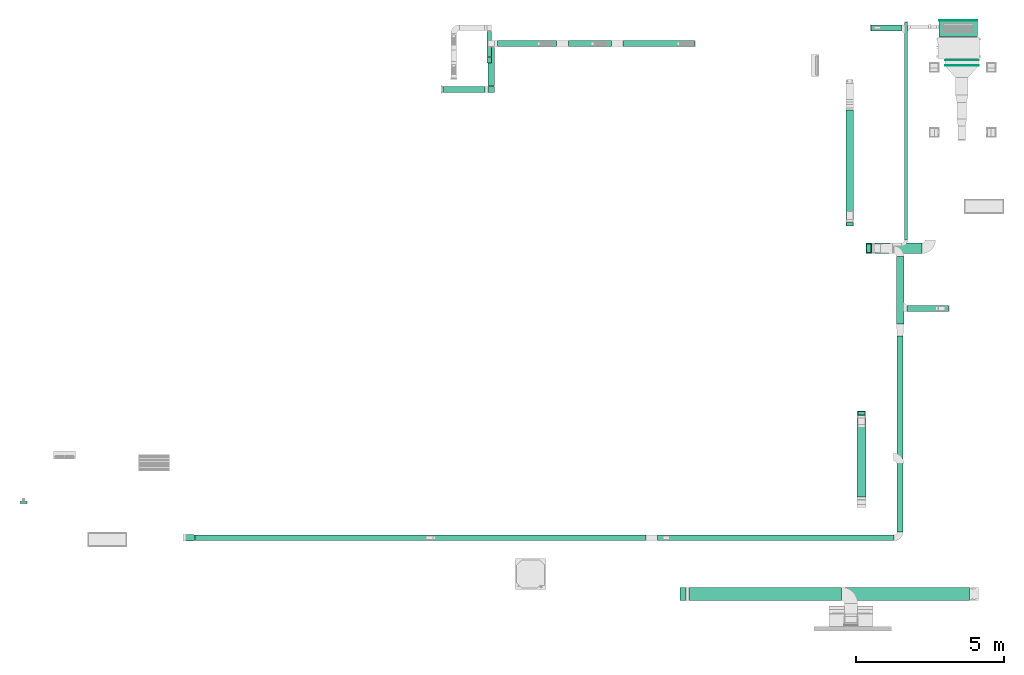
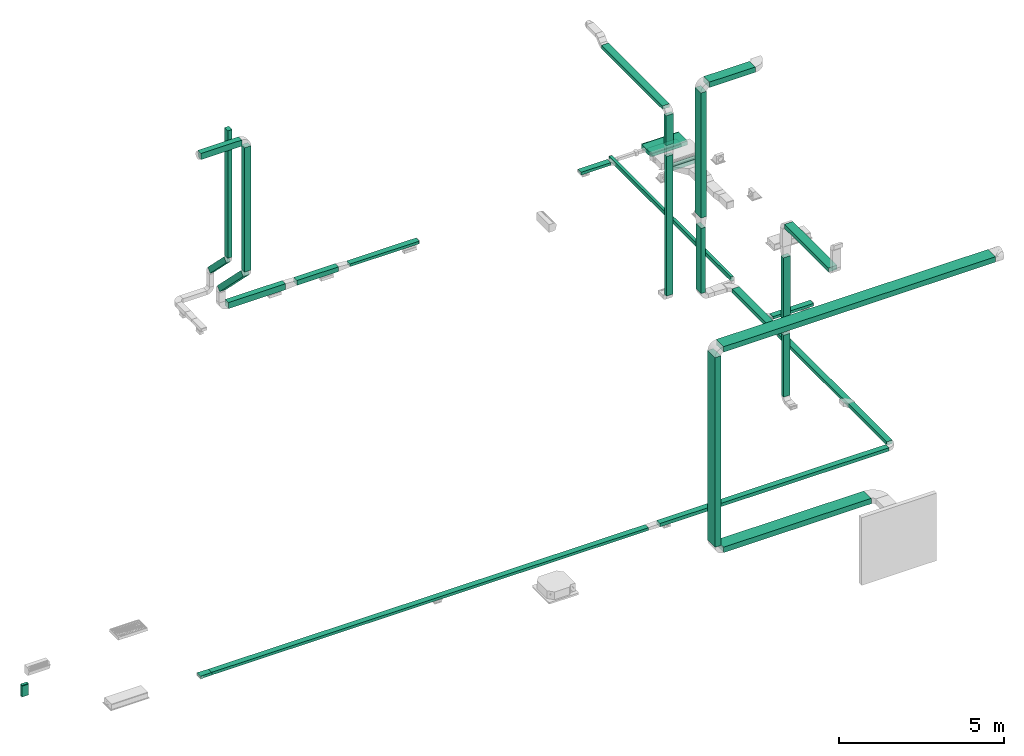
# One storey, part 2 of 22: 32 flow segments, 3 flow fittings.
"""IFC2X3 building model written with IfcOpenShell, lengths in millimetres."""

from ifc_helpers import new_model, entity, si_unit, converted_unit, derived_unit, direction, frame, frame_2d, origin, origin_2d_with_axis, place, context, subcontext, project, spatial, polyline, rectangle, outline, extrude, source, transform, mapped, material, type_object, type_shapes, element, save


model = new_model("IFC2X3")

# Units and contexts
model_context = context("Model", 3, precision=0.01, world=origin(), true_north=direction((6.123233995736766e-17, 1.0)))
body_context = subcontext(model_context, "Body", "Model", "MODEL_VIEW")
ifc_project = project(units=[si_unit("LENGTHUNIT", "METRE", prefix="MILLI"), converted_unit("PLANEANGLEUNIT", "DEGREE", entity("IfcPlaneAngleMeasure", 0.017453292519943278), si_unit("PLANEANGLEUNIT", "RADIAN"), dimensions=[0, 0, 0, 0, 0, 0, 0]), si_unit("AREAUNIT", "SQUARE_METRE"), derived_unit("THERMALTRANSMITTANCEUNIT", [(si_unit("MASSUNIT", "GRAM", prefix="KILO"), 1), (si_unit("THERMODYNAMICTEMPERATUREUNIT", "KELVIN"), -1), (si_unit("TIMEUNIT", "SECOND"), -3)])], contexts=[model_context])

# Site, building, storey
site_placement = place(None, origin())
site = spatial("IfcSite", under=ifc_project, at=site_placement, Name="Default", CompositionType="ELEMENT")
building_placement = place(site_placement, origin())
building = spatial("IfcBuilding", under=site, at=building_placement, Name="Praça Pedro II, 1301 - Centro (Sul), Teresina - PI, 64001-100", CompositionType="ELEMENT")
storey_placement = place(building_placement, frame((0.0, 0.0, 320.0)))
storey = spatial("IfcBuildingStorey", under=building, at=storey_placement, Name="TÉRREO +0.32m", CompositionType="ELEMENT", Elevation=319.99999999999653)

# Flow segments
duct_segment_type = type_object("IfcDuctSegmentType", Name="Duto retangular:Raios cotovelos / torneiras", PredefinedType="NOTDEFINED")
flow_segment_1_placement = place(storey_placement, origin())
element("IfcFlowSegment", 1, at=flow_segment_1_placement, inside=storey, type_object=duct_segment_type, Name="Duto retangular:Raios cotovelos / torneiras", ObjectType="Duto retangular:Raios cotovelos / torneiras", context=body_context, shape_type="SweptSolid", body=[
    extrude(rectangle(XDim=125.00000000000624, YDim=250.0000000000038, at=origin_2d_with_axis()), frame((33786.88553093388, -58173.34224349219, 7565.758657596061), z_axis=(0.0, 0.0, 1.0), x_axis=(0.0, 1.0, 0.0)), (0.0, 0.0, 1.0), 1108.6132194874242),
])
flow_segment_2_placement = place(storey_placement, origin())
element("IfcFlowSegment", 2, at=flow_segment_2_placement, inside=storey, type_object=duct_segment_type, Name="Duto retangular:Raios cotovelos / torneiras", ObjectType="Duto retangular:Raios cotovelos / torneiras", context=body_context, shape_type="SweptSolid", body=[
    extrude(rectangle(XDim=125.00000000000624, YDim=225.00000000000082, at=frame_2d((8.661515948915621e-12, 0.0), x_axis=(1.0, 0.0))), frame((34186.88553093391, -64568.11640775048, 2003.5000001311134), z_axis=(0.0, 0.0, 1.0), x_axis=(0.0, 1.0, 0.0)), (0.0, 0.0, 1.0), 2289.0158834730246),
])
flow_segment_3_placement = place(storey_placement, origin())
element("IfcFlowSegment", 3, at=flow_segment_3_placement, inside=storey, type_object=duct_segment_type, Name="Duto retangular:Raios cotovelos / torneiras", ObjectType="Duto retangular:Raios cotovelos / torneiras", context=body_context, shape_type="SweptSolid", body=[
    extrude(rectangle(XDim=150.00000000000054, YDim=250.0000000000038, at=origin_2d_with_axis()), frame((34186.88553093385, -64568.116407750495, 4692.515883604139), z_axis=(0.0, 0.0, 1.0), x_axis=(0.0, 1.0, 0.0)), (0.0, 0.0, 1.0), 2473.909397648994),
])
flow_segment_4_placement = place(storey_placement, origin())
element("IfcFlowSegment", 4, at=flow_segment_4_placement, inside=storey, type_object=duct_segment_type, Name="Duto retangular:Raios cotovelos / torneiras", ObjectType="Duto retangular:Raios cotovelos / torneiras", context=body_context, shape_type="SweptSolid", body=[
    extrude(rectangle(XDim=2420.0, YDim=199.99999999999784, at=frame_2d((-2.1600499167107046e-12, 1.2995826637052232e-11), x_axis=(1.0, 0.0))), frame((27325.758340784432, -52054.62602949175, 2050.0)), (0.0, 0.0, 1.0), 100.0),
])
flow_segment_5_placement = place(storey_placement, origin())
element("IfcFlowSegment", 5, at=flow_segment_5_placement, inside=storey, type_object=duct_segment_type, Name="Duto retangular:Raios cotovelos / torneiras", ObjectType="Duto retangular:Raios cotovelos / torneiras", context=body_context, shape_type="SweptSolid", body=[
    extrude(rectangle(XDim=1456.6246499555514, YDim=199.99999999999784, at=frame_2d((0.0, 4.334310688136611e-12), x_axis=(1.0, 0.0))), frame((24987.446015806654, -52054.62602949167, 2012.5000000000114), z_axis=(0.0, 0.0, 1.0), x_axis=(-1.0, 0.0, 0.0)), (0.0, 0.0, 1.0), 175.00000000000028),
])
flow_segment_6_placement = place(storey_placement, origin())
element("IfcFlowSegment", 6, at=flow_segment_6_placement, inside=storey, type_object=duct_segment_type, Name="Duto retangular:Raios cotovelos / torneiras", ObjectType="Duto retangular:Raios cotovelos / torneiras", context=body_context, shape_type="SweptSolid", body=[
    extrude(rectangle(XDim=1997.973528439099, YDim=199.99999999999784, at=frame_2d((2.1600499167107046e-12, 8.661515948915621e-12), x_axis=(1.0, 0.0))), frame((22860.14692660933, -52054.62602949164, 1987.500000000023), z_axis=(0.0, 0.0, 1.0), x_axis=(-1.0, 0.0, 0.0)), (0.0, 0.0, 1.0), 224.99999999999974),
])
flow_segment_7_placement = place(storey_placement, origin())
element("IfcFlowSegment", 7, at=flow_segment_7_placement, inside=storey, type_object=duct_segment_type, Name="Duto retangular:Raios cotovelos / torneiras", ObjectType="Duto retangular:Raios cotovelos / torneiras", context=body_context, shape_type="SweptSolid", body=[
    extrude(rectangle(XDim=199.99999999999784, YDim=150.00000000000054, at=frame_2d((8.668621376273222e-12, 0.0), x_axis=(1.0, 0.0))), frame((21590.507671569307, -52617.49886481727, 4306.0425145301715), z_axis=(0.0, 0.0, 1.0), x_axis=(0.0, 1.0, 0.0)), (0.0, 0.0, 1.0), 4718.957485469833),
])
flow_segment_8_placement = place(storey_placement, origin())
element("IfcFlowSegment", 8, at=flow_segment_8_placement, inside=storey, type_object=duct_segment_type, Name="Duto retangular:Raios cotovelos / torneiras", ObjectType="Duto retangular:Raios cotovelos / torneiras", context=body_context, shape_type="SweptSolid", body=[
    extrude(rectangle(XDim=199.99999999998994, YDim=2025.9867361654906, at=frame_2d((2.1032064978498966e-12, 4.028777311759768e-12), x_axis=(0.0, 1.0))), frame((21536.16016238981, -52829.49915312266, 3533.7564558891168), z_axis=(1.0, 0.0, 0.0), x_axis=(0.0, -0.7071067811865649, 0.7071067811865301)), (0.0, 0.0, 1.0), 225.00000000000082),
])
flow_segment_9_placement = place(storey_placement, origin())
element("IfcFlowSegment", 9, at=flow_segment_9_placement, inside=storey, type_object=duct_segment_type, Name="Duto retangular:Raios cotovelos / torneiras", ObjectType="Duto retangular:Raios cotovelos / torneiras", context=body_context, shape_type="SweptSolid", body=[
    extrude(rectangle(XDim=225.00000000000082, YDim=200.0000000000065, at=origin_2d_with_axis()), frame((21648.660162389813, -53604.37227675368, 4391.47229199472)), (0.0, 0.0, 1.0), 4596.027708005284),
])
flow_segment_10_placement = place(storey_placement, origin())
element("IfcFlowSegment", 10, at=flow_segment_10_placement, inside=storey, type_object=duct_segment_type, Name="Duto retangular:Raios cotovelos / torneiras", ObjectType="Duto retangular:Raios cotovelos / torneiras", context=body_context, shape_type="SweptSolid", body=[
    extrude(rectangle(XDim=125.00000000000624, YDim=225.00000000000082, at=origin_2d_with_axis()), frame((33786.885530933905, -58173.34224349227, 2003.5000001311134), z_axis=(0.0, 0.0, 1.0), x_axis=(0.0, 1.0, 0.0)), (0.0, 0.0, 1.0), 5162.258657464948),
])
flow_segment_11_placement = place(storey_placement, origin())
element("IfcFlowSegment", 11, at=flow_segment_11_placement, inside=storey, type_object=duct_segment_type, Name="Duto retangular:Raios cotovelos / torneiras", ObjectType="Duto retangular:Raios cotovelos / torneiras", context=body_context, shape_type="SweptSolid", body=[
    extrude(rectangle(XDim=3710.1902961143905, YDim=249.9999999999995, at=origin_2d_with_axis()), frame((33786.88553093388, -56155.747095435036, 8774.3718770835), z_axis=(0.0, 0.0, 1.0), x_axis=(0.0, 1.0, 0.0)), (0.0, 0.0, 1.0), 124.99999999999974),
])
flow_segment_12_placement = place(storey_placement, origin())
element("IfcFlowSegment", 12, at=flow_segment_12_placement, inside=storey, type_object=duct_segment_type, Name="Duto retangular:Raios cotovelos / torneiras", ObjectType="Duto retangular:Raios cotovelos / torneiras", context=body_context, shape_type="SweptSolid", body=[
    extrude(rectangle(XDim=2670.000000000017, YDim=300.00000000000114, at=frame_2d((0.0, 2.1742607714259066e-12), x_axis=(1.0, 0.0))), frame((34186.885530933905, -66078.11640775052, 8328.943296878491), z_axis=(0.0, 0.0, 1.0), x_axis=(0.0, -1.0, 0.0)), (0.0, 0.0, 1.0), 150.00000000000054),
])
flow_segment_13_placement = place(storey_placement, origin())
element("IfcFlowSegment", 13, at=flow_segment_13_placement, inside=storey, type_object=duct_segment_type, Name="Duto retangular:Raios cotovelos / torneiras", ObjectType="Duto retangular:Raios cotovelos / torneiras", context=body_context, shape_type="SweptSolid", body=[
    extrude(rectangle(XDim=1426.1187598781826, YDim=199.99999999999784, at=frame_2d((2.1600499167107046e-12, 4.334310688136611e-12), x_axis=(1.0, 0.0))), frame((20723.100782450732, -53604.37227675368, 9087.50000000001), z_axis=(0.0, 0.0, 1.0), x_axis=(-1.0, 0.0, 0.0)), (0.0, 0.0, 1.0), 225.00000000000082),
])
flow_segment_14_placement = place(storey_placement, origin())
element("IfcFlowSegment", 14, at=flow_segment_14_placement, inside=storey, type_object=duct_segment_type, Name="Duto retangular:Raios cotovelos / torneiras", ObjectType="Duto retangular:Raios cotovelos / torneiras", context=body_context, shape_type="SweptSolid", body=[
    extrude(rectangle(XDim=540.5190687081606, YDim=1290.0000000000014, at=frame_2d((0.0, -2.1600499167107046e-12), x_axis=(1.0, 0.0))), frame((37466.62781411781, -51549.5864191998, 2152.232774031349), z_axis=(0.0, 0.0, 1.0), x_axis=(0.0, 1.0, 0.0)), (0.0, 0.0, 1.0), 147.00000000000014),
])
flow_segment_15_placement = place(storey_placement, origin())
element("IfcFlowSegment", 15, at=flow_segment_15_placement, inside=storey, type_object=duct_segment_type, Name="Duto retangular:Raios cotovelos / torneiras", ObjectType="Duto retangular:Raios cotovelos / torneiras", context=body_context, shape_type="SweptSolid", body=[
    extrude(rectangle(XDim=8010.568039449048, YDim=199.99999999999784, at=frame_2d((0.0, -4.334310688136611e-12), x_axis=(1.0, 0.0))), frame((31292.604953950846, -68787.15918292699, 2162.500000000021)), (0.0, 0.0, 1.0), 124.99999999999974),
])
flow_segment_16_placement = place(storey_placement, origin())
element("IfcFlowSegment", 16, at=flow_segment_16_placement, inside=storey, type_object=duct_segment_type, Name="Duto retangular:Raios cotovelos / torneiras", ObjectType="Duto retangular:Raios cotovelos / torneiras", context=body_context, shape_type="SweptSolid", body=[
    extrude(rectangle(XDim=6631.096291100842, YDim=199.99999999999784, at=origin_2d_with_axis()), frame((35497.88897367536, -65271.611037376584, 2162.4999999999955), z_axis=(0.0, 0.0, 1.0), x_axis=(0.0, 1.0, 0.0)), (0.0, 0.0, 1.0), 124.99999999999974),
])
flow_segment_17_placement = place(storey_placement, origin())
element("IfcFlowSegment", 17, at=flow_segment_17_placement, inside=storey, type_object=duct_segment_type, Name="Duto retangular:Raios cotovelos / torneiras", ObjectType="Duto retangular:Raios cotovelos / torneiras", context=body_context, shape_type="SweptSolid", body=[
    extrude(rectangle(XDim=15266.21238553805, YDim=199.99999999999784, at=origin_2d_with_axis()), frame((19254.214741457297, -68787.15918292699, 2175.0), z_axis=(0.0, 0.0, 1.0), x_axis=(-1.0, 0.0, 0.0)), (0.0, 0.0, 1.0), 100.0),
])
flow_segment_18_placement = place(storey_placement, origin())
element("IfcFlowSegment", 18, at=flow_segment_18_placement, inside=storey, type_object=duct_segment_type, Name="Duto retangular:Raios cotovelos / torneiras", ObjectType="Duto retangular:Raios cotovelos / torneiras", context=body_context, shape_type="SweptSolid", body=[
    extrude(rectangle(XDim=1039.9999999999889, YDim=199.99999999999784, at=frame_2d((0.0, -4.334310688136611e-12), x_axis=(1.0, 0.0))), frame((35027.88897367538, -51518.40149071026, 2175.0)), (0.0, 0.0, 1.0), 100.0),
])
flow_segment_19_placement = place(storey_placement, origin())
element("IfcFlowSegment", 19, at=flow_segment_19_placement, inside=storey, type_object=duct_segment_type, Name="Duto retangular:Raios cotovelos / torneiras", ObjectType="Duto retangular:Raios cotovelos / torneiras", context=body_context, shape_type="SweptSolid", body=[
    extrude(rectangle(XDim=1419.9999999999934, YDim=199.99999999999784, at=frame_2d((-2.1600499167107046e-12, 8.661515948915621e-12), x_axis=(1.0, 0.0))), frame((36432.88897367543, -61024.97495062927, 2175.0), z_axis=(0.0, 0.0, 1.0), x_axis=(-1.0, 0.0, 0.0)), (0.0, 0.0, 1.0), 100.0),
])
flow_segment_20_placement = place(storey_placement, origin())
element("IfcFlowSegment", 20, at=flow_segment_20_placement, inside=storey, type_object=duct_segment_type, Name="Duto retangular:Raios cotovelos / torneiras", ObjectType="Duto retangular:Raios cotovelos / torneiras", context=body_context, shape_type="SweptSolid", body=[
    extrude(rectangle(XDim=7378.692961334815, YDim=99.99999999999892, at=frame_2d((4.320099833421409e-12, 2.1671553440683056e-12), x_axis=(1.0, 0.0))), frame((35697.888973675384, -55020.80466881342, 2150.0), z_axis=(0.0, 0.0, 1.0), x_axis=(0.0, -1.0, 0.0)), (0.0, 0.0, 1.0), 150.00000000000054),
])
flow_segment_21_placement = place(storey_placement, origin())
element("IfcFlowSegment", 21, at=flow_segment_21_placement, inside=storey, type_object=duct_segment_type, Name="Duto retangular:Raios cotovelos / torneiras", ObjectType="Duto retangular:Raios cotovelos / torneiras", context=body_context, shape_type="SweptSolid", body=[
    extrude(rectangle(XDim=324.9999999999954, YDim=1025.000000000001, at=origin_2d_with_axis()), frame((37466.62781411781, -51518.40149071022, 2040.0), z_axis=(0.0, 0.0, 1.0), x_axis=(0.0, 1.0, 0.0)), (0.0, 0.0, 1.0), 111.23277403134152),
])
flow_segment_22_placement = place(storey_placement, origin())
element("IfcFlowSegment", 22, at=flow_segment_22_placement, inside=storey, type_object=duct_segment_type, Name="Duto retangular:Raios cotovelos / torneiras", ObjectType="Duto retangular:Raios cotovelos / torneiras", context=body_context, shape_type="SweptSolid", body=[
    extrude(rectangle(XDim=99.99999999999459, YDim=225.00000000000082, at=origin_2d_with_axis()), frame((5819.568868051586, -67587.67651651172, 2675.0), z_axis=(0.0, 0.0, 1.0), x_axis=(0.0, 1.0, 0.0)), (0.0, 0.0, 1.0), 400.0),
])
flow_segment_23_placement = place(storey_placement, origin())
element("IfcFlowSegment", 23, at=flow_segment_23_placement, inside=storey, type_object=duct_segment_type, Name="Duto retangular:Raios cotovelos / torneiras", ObjectType="Duto retangular:Raios cotovelos / torneiras", context=body_context, shape_type="SweptSolid", body=[
    extrude(rectangle(XDim=300.0000000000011, YDim=150.00000000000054, at=origin_2d_with_axis()), frame((34439.07066891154, -58985.15114948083, 2400.0), z_axis=(0.0, 0.0, 1.0), x_axis=(0.0, 1.0, 0.0)), (0.0, 0.0, 1.0), 2411.336223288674),
])
flow_segment_24_placement = place(storey_placement, origin())
element("IfcFlowSegment", 24, at=flow_segment_24_placement, inside=storey, type_object=duct_segment_type, Name="Duto retangular:Raios cotovelos / torneiras", ObjectType="Duto retangular:Raios cotovelos / torneiras", context=body_context, shape_type="SweptSolid", body=[
    extrude(rectangle(XDim=350.00000000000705, YDim=199.99999999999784, at=frame_2d((-8.668621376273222e-12, 0.0), x_axis=(1.0, 0.0))), frame((34439.07066891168, -58985.15114948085, 5211.336223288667), z_axis=(0.0, 0.0, 1.0), x_axis=(0.0, -1.0, 0.0)), (0.0, 0.0, 1.0), 4627.617403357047),
])
flow_segment_25_placement = place(storey_placement, origin())
element("IfcFlowSegment", 25, at=flow_segment_25_placement, inside=storey, type_object=duct_segment_type, Name="Duto retangular:Raios cotovelos / torneiras", ObjectType="Duto retangular:Raios cotovelos / torneiras", context=body_context, shape_type="SweptSolid", body=[
    extrude(rectangle(XDim=1605.000000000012, YDim=349.9999999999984, at=frame_2d((-2.1600499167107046e-12, -4.334310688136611e-12), x_axis=(1.0, 0.0))), frame((35441.5706689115, -58985.15114948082, 9938.95362664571)), (0.0, 0.0, 1.0), 200.0000000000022),
])
flow_segment_26_placement = place(storey_placement, origin())
element("IfcFlowSegment", 26, at=flow_segment_26_placement, inside=storey, type_object=duct_segment_type, Name="Duto retangular:Raios cotovelos / torneiras", ObjectType="Duto retangular:Raios cotovelos / torneiras", context=body_context, shape_type="SweptSolid", body=[
    extrude(rectangle(XDim=15.287154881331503, YDim=1134.000000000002, at=frame_2d((-4.331202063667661e-12, 0.0), x_axis=(1.0, 0.0))), frame((37585.38295556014, -52617.48953099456, 2169.9567470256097), z_axis=(0.0, 0.0, 1.0), x_axis=(0.0, 1.0, 0.0)), (0.0, 0.0, 1.0), 147.00000000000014),
])
flow_segment_27_placement = place(storey_placement, origin())
element("IfcFlowSegment", 27, at=flow_segment_27_placement, inside=storey, type_object=duct_segment_type, Name="Duto retangular:Raios cotovelos / torneiras", ObjectType="Duto retangular:Raios cotovelos / torneiras", context=body_context, shape_type="SweptSolid", body=[
    extrude(rectangle(XDim=16.750947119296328, YDim=1134.000000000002, at=frame_2d((0.0, 2.1600499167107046e-12), x_axis=(1.0, 0.0))), frame((37584.97586072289, -52793.22142711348, 2169.9567470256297), z_axis=(0.0, 0.0, 1.0), x_axis=(0.0, 1.0, 0.0)), (0.0, 0.0, 1.0), 147.00000000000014),
])
flow_segment_28_placement = place(storey_placement, origin())
element("IfcFlowSegment", 28, at=flow_segment_28_placement, inside=storey, type_object=duct_segment_type, Name="Duto retangular:Raios cotovelos / torneiras", ObjectType="Duto retangular:Raios cotovelos / torneiras", context=body_context, shape_type="SweptSolid", body=[
    extrude(rectangle(XDim=5160.6052832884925, YDim=450.00000000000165, at=frame_2d((0.0, -4.320099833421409e-12), x_axis=(1.0, 0.0))), frame((30931.510240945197, -70691.28932437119, 2075.0), z_axis=(0.0, 0.0, 1.0), x_axis=(-1.0, 0.0, 0.0)), (0.0, 0.0, 1.0), 200.0),
])
flow_segment_29_placement = place(storey_placement, origin())
element("IfcFlowSegment", 29, at=flow_segment_29_placement, inside=storey, type_object=duct_segment_type, Name="Duto retangular:Raios cotovelos / torneiras", ObjectType="Duto retangular:Raios cotovelos / torneiras", context=body_context, shape_type="SweptSolid", body=[
    extrude(rectangle(XDim=199.99999999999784, YDim=450.00000000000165, at=origin_2d_with_axis()), frame((28151.207599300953, -70691.28932437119, 2375.0), z_axis=(0.0, 0.0, 1.0), x_axis=(-1.0, 0.0, 0.0)), (0.0, 0.0, 1.0), 7012.0000000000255),
])
flow_segment_30_placement = place(storey_placement, origin())
element("IfcFlowSegment", 30, at=flow_segment_30_placement, inside=storey, type_object=duct_segment_type, Name="Duto retangular:Raios cotovelos / torneiras", ObjectType="Duto retangular:Raios cotovelos / torneiras", context=body_context, shape_type="SweptSolid", body=[
    extrude(rectangle(XDim=9501.155881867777, YDim=450.00000000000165, at=frame_2d((0.0, -4.320099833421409e-12), x_axis=(1.0, 0.0))), frame((33101.785540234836, -70691.2893243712, 9487.0)), (0.0, 0.0, 1.0), 199.99999999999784),
])
flow_segment_31_placement = place(storey_placement, origin())
element("IfcFlowSegment", 31, at=flow_segment_31_placement, inside=storey, type_object=duct_segment_type, Name="Duto retangular:Raios cotovelos / torneiras", ObjectType="Duto retangular:Raios cotovelos / torneiras", context=body_context, shape_type="SweptSolid", body=[
    extrude(rectangle(XDim=2295.911742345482, YDim=249.9999999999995, at=frame_2d((-8.753886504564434e-12, -2.1671553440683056e-12), x_axis=(1.0, 0.0))), frame((35497.88897367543, -60408.10702065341, 2150.0), z_axis=(0.0, 0.0, 1.0), x_axis=(0.0, 1.0, 0.0)), (0.0, 0.0, 1.0), 149.99999999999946),
])
flow_segment_32_placement = place(storey_placement, origin())
element("IfcFlowSegment", 32, at=flow_segment_32_placement, inside=storey, type_object=duct_segment_type, Name="Duto retangular:Raios cotovelos / torneiras", ObjectType="Duto retangular:Raios cotovelos / torneiras", context=body_context, shape_type="SweptSolid", body=[
    extrude(rectangle(XDim=200.00000000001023, YDim=150.00000000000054, at=frame_2d((-1.9895196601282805e-13, 0.0), x_axis=(1.0, 0.0))), frame((21590.507671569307, -52558.92022105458, 4164.621158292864), z_axis=(0.0, 0.7071067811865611, -0.707106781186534), x_axis=(0.0, 0.707106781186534, 0.7071067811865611)), (0.0, 0.0, 1.0), 1390.7514788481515),
])

# Flow fittings
ifc_material = material(Name="<Unnamed>")
duct_fitting_type_1 = type_object("IfcDuctFittingType", Name="M_Tampa retangular:Padrão", PredefinedType="NOTDEFINED", material=ifc_material)
shared_shape_1 = source(origin(), body_context, "Body", "SweptSolid", [
    extrude(rectangle(XDim=24.99999999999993, YDim=1290.0, at=frame_2d((8.881784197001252e-16, 0.0), x_axis=(1.0, 0.0))), frame((12.500000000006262, 0.0, -73.50000000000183)), (0.0, 0.0, 1.0), 147.00000000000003),
])
type_shapes(duct_fitting_type_1, [shared_shape_1])
flow_fitting_1_placement = place(storey_placement, frame((37466.627814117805, -51279.32688484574, 2225.7327740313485), z_axis=(0.0, 0.0, 1.0), x_axis=(0.0, 1.0, 0.0)))
element("IfcFlowFitting", 33, at=flow_fitting_1_placement, inside=storey, type_object=duct_fitting_type_1, material=ifc_material, Name="M_Tampa retangular:Padrão", ObjectType="M_Tampa retangular:Padrão", context=body_context, shape_type="MappedRepresentation", body=[
    mapped(shared_shape_1, transform((0.0, 0.0, 0.0), scale=1.0)),
])
duct_fitting_type_2 = type_object("IfcDuctFittingType", Name="M_Rectangular Transition - L:400 mm (L)", PredefinedType="NOTDEFINED", material=ifc_material)
shared_shape_2 = source(origin(), body_context, "Body", "SweptSolid", [
    extrude(outline(polyline([(-203.41632485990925, -106.19815808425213), (196.77893997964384, -106.19815808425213), (203.02589045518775, 93.70425713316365), (-196.38850557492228, 118.69205903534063), (-203.41632485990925, -106.19815808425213)])), frame((200.0, 0.0, -50.0), z_axis=(0.0, 0.0, 1.0), x_axis=(0.9995120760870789, 0.03123475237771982, 0.0)), (0.0, 0.0, 1.0), 99.99999999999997),
])
type_shapes(duct_fitting_type_2, [shared_shape_2])
flow_fitting_2_placement = place(storey_placement, frame((11221.108548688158, -68787.15918292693, 2225.0)))
element("IfcFlowFitting", 34, at=flow_fitting_2_placement, inside=storey, type_object=duct_fitting_type_2, material=ifc_material, Name="M_Rectangular Transition - L:400 mm (L)", ObjectType="M_Rectangular Transition - L:400 mm (L)", context=body_context, shape_type="MappedRepresentation", body=[
    mapped(shared_shape_2, transform((0.0, 0.0, 0.0), scale=1.0)),
])
duct_fitting_type_3 = type_object("IfcDuctFittingType", Name="M_Tampa retangular:Padrão", PredefinedType="NOTDEFINED", material=ifc_material)
shared_shape_3 = source(origin(), body_context, "Body", "SweptSolid", [
    extrude(rectangle(XDim=24.999999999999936, YDim=225.00000000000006, at=origin_2d_with_axis()), frame((12.500000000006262, 0.0, -50.0)), (0.0, 0.0, 1.0), 100.0),
])
type_shapes(duct_fitting_type_3, [shared_shape_3])
flow_fitting_3_placement = place(storey_placement, frame((5819.568868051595, -67587.67651651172, 3075.0), z_axis=(0.0, 1.0, 0.0), x_axis=(0.0, 0.0, 1.0)))
element("IfcFlowFitting", 35, at=flow_fitting_3_placement, inside=storey, type_object=duct_fitting_type_3, material=ifc_material, Name="M_Tampa retangular:Padrão", ObjectType="M_Tampa retangular:Padrão", context=body_context, shape_type="MappedRepresentation", body=[
    mapped(shared_shape_3, transform((0.0, 0.0, 0.0), scale=1.0)),
])

save(model, "model.ifc")
